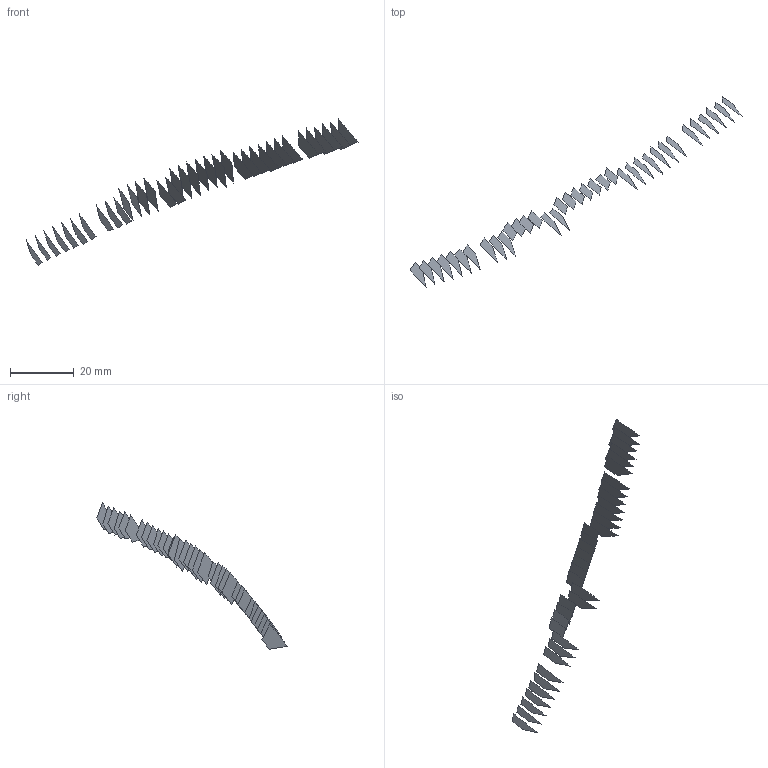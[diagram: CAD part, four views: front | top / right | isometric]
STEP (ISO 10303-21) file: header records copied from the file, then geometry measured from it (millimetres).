
FILE_DESCRIPTION(('FreeCAD Model'),'2;1');
FILE_NAME('Open CASCADE Shape Model','2022-05-22T07:50:32',('FreeCAD'),( 'FreeCAD'),'Open CASCADE STEP processor 7.5','FreeCAD','Unknown');
FILE_SCHEMA(('AUTOMOTIVE_DESIGN { 1 0 10303 214 1 1 1 1 }'));
Length unit declared in the file: millimetre
Products named in the file (37): Open CASCADE STEP translator 7.5 1; Open CASCADE STEP translator 7.5 1.1; Open CASCADE STEP translator 7.5 1.2; Open CASCADE STEP translator 7.5 1.3; Open CASCADE STEP translator 7.5 1.4; Open CASCADE STEP translator 7.5 1.5; Open CASCADE STEP translator 7.5 1.6; Open CASCADE STEP translator 7.5 1.7; Open CASCADE STEP translator 7.5 1.8; Open CASCADE STEP translator 7.5 1.9; Open CASCADE STEP translator 7.5 1.10; Open CASCADE STEP translator 7.5 1.11; Open CASCADE STEP translator 7.5 1.12; Open CASCADE STEP translator 7.5 1.13; Open CASCADE STEP translator 7.5 1.14; Open CASCADE STEP translator 7.5 1.15; Open CASCADE STEP translator 7.5 1.16; Open CASCADE STEP translator 7.5 1.17; Open CASCADE STEP translator 7.5 1.18; Open CASCADE STEP translator 7.5 1.19; Open CASCADE STEP translator 7.5 1.20; Open CASCADE STEP translator 7.5 1.21; Open CASCADE STEP translator 7.5 1.22; Open CASCADE STEP translator 7.5 1.23; Open CASCADE STEP translator 7.5 1.24; Open CASCADE STEP translator 7.5 1.25; Open CASCADE STEP translator 7.5 1.26; Open CASCADE STEP translator 7.5 1.27; Open CASCADE STEP translator 7.5 1.28; Open CASCADE STEP translator 7.5 1.29; Open CASCADE STEP translator 7.5 1.30; Open CASCADE STEP translator 7.5 1.31; Open CASCADE STEP translator 7.5 1.32; Open CASCADE STEP translator 7.5 1.33; Open CASCADE STEP translator 7.5 1.34; Open CASCADE STEP translator 7.5 1.35; Open CASCADE STEP translator 7.5 1.36
Assembly tree (36 placements, depth 2):
  Open CASCADE STEP translator 7.5 1
    Open CASCADE STEP translator 7.5 1.1
    Open CASCADE STEP translator 7.5 1.2
    Open CASCADE STEP translator 7.5 1.3
    Open CASCADE STEP translator 7.5 1.4
    Open CASCADE STEP translator 7.5 1.5
    Open CASCADE STEP translator 7.5 1.6
    Open CASCADE STEP translator 7.5 1.7
    Open CASCADE STEP translator 7.5 1.8
    Open CASCADE STEP translator 7.5 1.9
    Open CASCADE STEP translator 7.5 1.10
    Open CASCADE STEP translator 7.5 1.11
    Open CASCADE STEP translator 7.5 1.12
    Open CASCADE STEP translator 7.5 1.13
    Open CASCADE STEP translator 7.5 1.14
    Open CASCADE STEP translator 7.5 1.15
    Open CASCADE STEP translator 7.5 1.16
    Open CASCADE STEP translator 7.5 1.17
    Open CASCADE STEP translator 7.5 1.18
    Open CASCADE STEP translator 7.5 1.19
    Open CASCADE STEP translator 7.5 1.20
    Open CASCADE STEP translator 7.5 1.21
    Open CASCADE STEP translator 7.5 1.22
    Open CASCADE STEP translator 7.5 1.23
    Open CASCADE STEP translator 7.5 1.24
    Open CASCADE STEP translator 7.5 1.25
    Open CASCADE STEP translator 7.5 1.26
    Open CASCADE STEP translator 7.5 1.27
    Open CASCADE STEP translator 7.5 1.28
    Open CASCADE STEP translator 7.5 1.29
    Open CASCADE STEP translator 7.5 1.30
    Open CASCADE STEP translator 7.5 1.31
    Open CASCADE STEP translator 7.5 1.32
    Open CASCADE STEP translator 7.5 1.33
    Open CASCADE STEP translator 7.5 1.34
    Open CASCADE STEP translator 7.5 1.35
    Open CASCADE STEP translator 7.5 1.36
Bounding box: 103.83 x 59.51 x 45.78 mm (x, y, z)
Surface area: 1278.1 mm2 (no closed solid volume)
Topology: 0 solids, 36 shells, 36 faces, 674 edges, 674 vertices
Faces by surface type: bspline 36
Entity records: 9786 total; most frequent: CARTESIAN_POINT 3551, B_SPLINE_CURVE_WITH_KNOTS 1348, ORIENTED_EDGE 674, EDGE_CURVE 674, VERTEX_POINT 674, SURFACE_CURVE 674, PCURVE 674, DEFINITIONAL_REPRESENTATION 674
